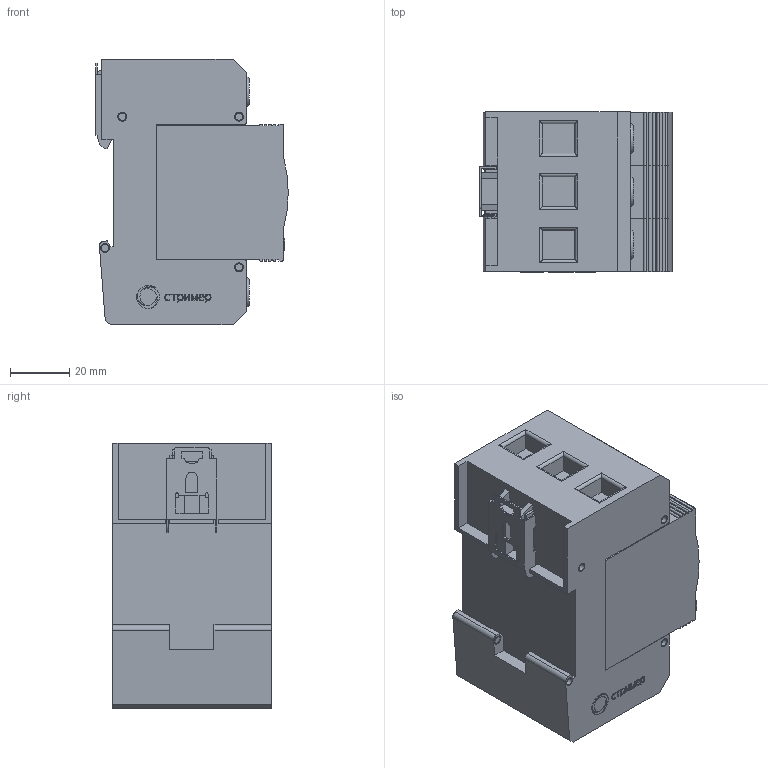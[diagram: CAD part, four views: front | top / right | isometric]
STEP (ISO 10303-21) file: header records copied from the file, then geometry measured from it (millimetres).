
FILE_DESCRIPTION(('TFLEX Exchange Step'),'2;1');
FILE_NAME('X2\041004400442\X0\.124_002.stp', '2022-08-30T14:15:12+03:00',('Ivan Berdigulov'),('Unknown organisation'),'TFLEX Exchange 2019.2','T-FLEX CAD','Unknown authorisation');
FILE_SCHEMA( ('AUTOMOTIVE_DESIGN { 1 0 10303 214 1 1 1 1 }') );
Length unit declared in the file: millimetre
Products named in the file (2): 0
Assembly tree (1 placements, depth 2):
  0
    0
Bounding box: 65.19 x 54.1 x 90 mm (x, y, z)
Volume: 252077.4 mm3; surface area: 53008.1 mm2
Topology: 40 solids, 40 shells, 592 faces, 1567 edges, 1068 vertices
Faces by surface type: plane 398, cylinder 100, bspline 90, torus 4
Full cylindrical faces by diameter (mm): 2.5 x13, 3 x13
Entity records: 20624 total; most frequent: CARTESIAN_POINT 6312, ORIENTED_EDGE 3074, DIRECTION 2557, EDGE_CURVE 1537, VERTEX_POINT 1068, VECTOR 1043, LINE 1043, AXIS2_PLACEMENT_3D 757
